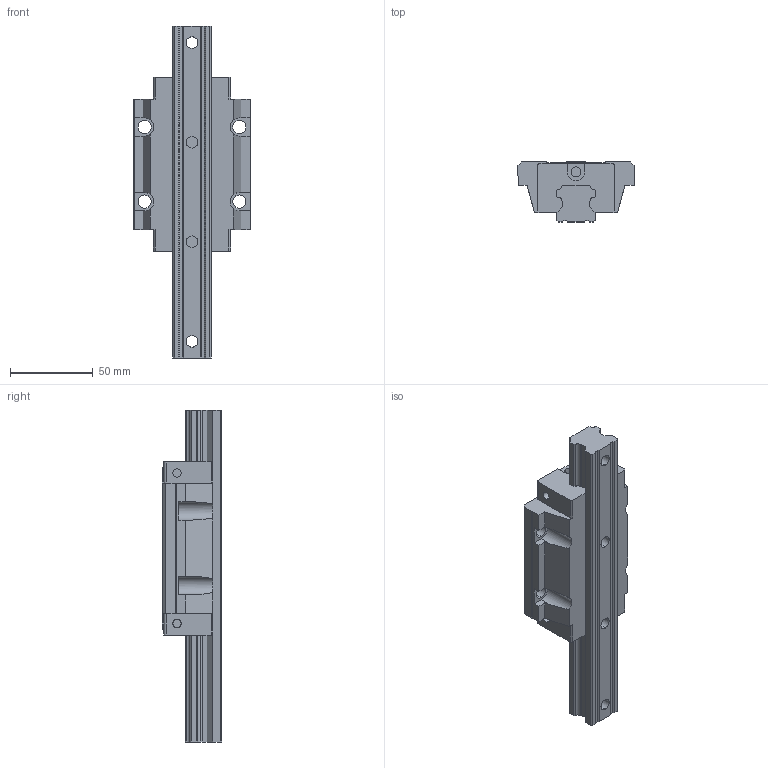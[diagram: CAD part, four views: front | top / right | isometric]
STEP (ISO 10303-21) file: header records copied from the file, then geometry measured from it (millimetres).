
FILE_DESCRIPTION((''),'2;1');
FILE_NAME('HGW25HC_ASM','2008-07-11T',('immo'),(''),'PRO/ENGINEER BY PARAMETRIC TECHNOLOGY CORPORATION, 2004360','PRO/ENGINEER BY PARAMETRIC TECHNOLOGY CORPORATION, 2004360','');
FILE_SCHEMA(('CONFIG_CONTROL_DESIGN'));
Length unit declared in the file: millimetre
Products named in the file (5): HG_BLOCK_HGWHC_ANY; HG_BLOCK_SS_ANY_ASM_ASM; HG_RAIL0_R_ANY; HGW25H_ANY_ASM_ASM; HGW25HC_ASM
Assembly tree (4 placements, depth 4):
  HGW25HC_ASM
    HGW25H_ANY_ASM_ASM
      HG_BLOCK_SS_ANY_ASM_ASM
        HG_BLOCK_HGWHC_ANY
      HG_RAIL0_R_ANY
Bounding box: 70 x 36 x 200 mm (x, y, z)
Volume: 223549.5 mm3; surface area: 49666.8 mm2
Topology: 2 solids, 2 shells, 198 faces, 564 edges, 384 vertices
Faces by surface type: plane 134, cylinder 64
Entity records: 6675 total; most frequent: CARTESIAN_POINT 1186, ORIENTED_EDGE 1128, DIRECTION 1112, EDGE_CURVE 564, VECTOR 420, LINE 420, VERTEX_POINT 384, AXIS2_PLACEMENT_3D 346
